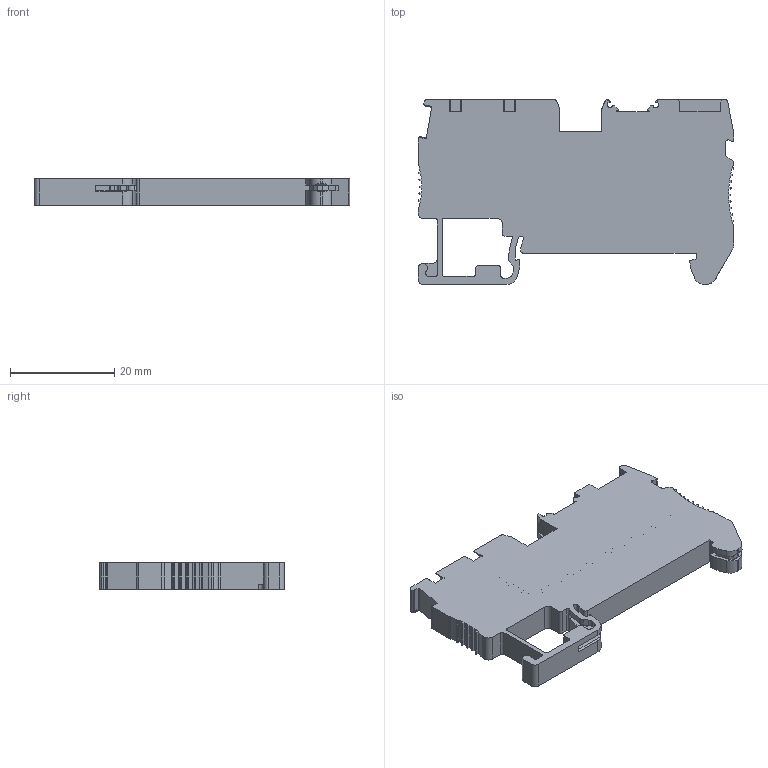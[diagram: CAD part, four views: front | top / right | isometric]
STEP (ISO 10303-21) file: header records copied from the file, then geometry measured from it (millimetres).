
FILE_DESCRIPTION (( 'STEP AP214' ), '1' );
FILE_NAME ('VPR-2.5-TWIN-1P.STEP', '2026-03-30T14:20:29', ( '' ), ( '' ), 'SwSTEP 2.0', 'SolidWorks 2022', '' );
FILE_SCHEMA (( 'AUTOMOTIVE_DESIGN' ));
Length unit declared in the file: millimetre
Products named in the file (1): VPR-2.5-TWIN-1P
Bounding box: 60.55 x 35.4 x 5.15 mm (x, y, z)
Volume: 8632.6 mm3; surface area: 6437.4 mm2
Topology: 6 solids, 6 shells, 547 faces, 1586 edges, 1050 vertices
Faces by surface type: plane 378, cylinder 167, bspline 2
Entity records: 18074 total; most frequent: CARTESIAN_POINT 3277, ORIENTED_EDGE 3172, DIRECTION 2989, EDGE_CURVE 1586, VECTOR 1229, LINE 1229, VERTEX_POINT 1050, AXIS2_PLACEMENT_3D 880
